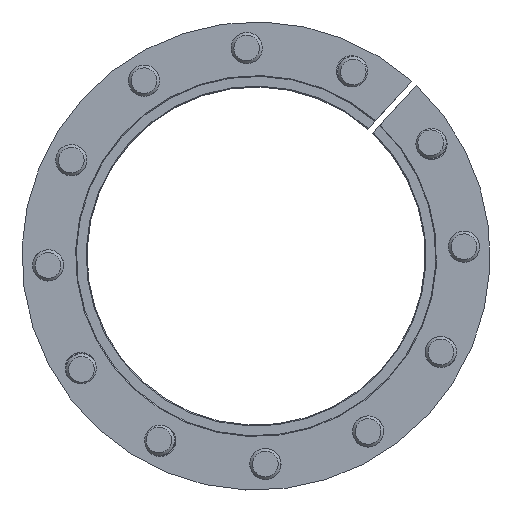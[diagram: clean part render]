
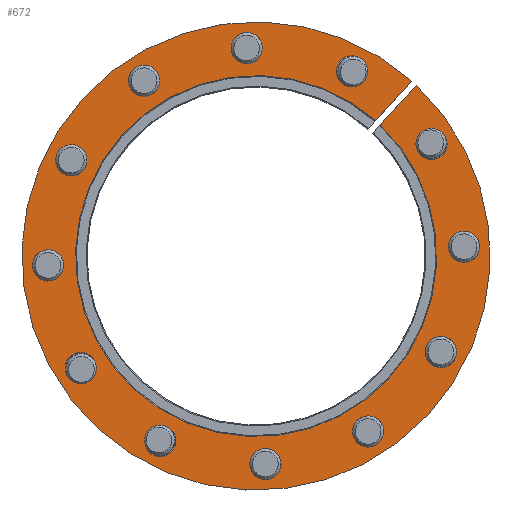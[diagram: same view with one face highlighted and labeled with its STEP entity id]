
A CAD part, left-side view. The second image highlights one B-rep face of the part: STEP entity #672.
In plain terms, the highlighted planar face has unit normal (-1, 0, 0) as drawn and (1, 0, 0) by its records, which use the part's own axes.
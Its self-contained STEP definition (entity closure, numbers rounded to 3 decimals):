
#123=CARTESIAN_POINT('',(34.,146.569,50.569));
#124=VERTEX_POINT('',#123);
#125=CARTESIAN_POINT('',(34.,146.569,56.569));
#126=DIRECTION('',(-1.0,0.0,0.0));
#127=DIRECTION('',(0.0,0.0,1.0));
#128=AXIS2_PLACEMENT_3D('',#125,#126,#127);
#129=CIRCLE('',#128,6.);
#130=EDGE_CURVE('',#124,#124,#129,.T.);
#151=CARTESIAN_POINT('',(34.,69.294,71.274));
#152=VERTEX_POINT('',#151);
#153=CARTESIAN_POINT('',(34.,69.294,77.274));
#154=DIRECTION('',(-1.0,0.0,0.0));
#155=DIRECTION('',(0.0,0.0,1.0));
#156=AXIS2_PLACEMENT_3D('',#153,#154,#155);
#157=CIRCLE('',#156,6.);
#158=EDGE_CURVE('',#152,#152,#157,.T.);
#179=CARTESIAN_POINT('',(34.,12.726,14.706));
#180=VERTEX_POINT('',#179);
#181=CARTESIAN_POINT('',(34.,12.726,20.706));
#182=DIRECTION('',(-1.0,0.0,0.0));
#183=DIRECTION('',(0.0,0.0,1.0));
#184=AXIS2_PLACEMENT_3D('',#181,#182,#183);
#185=CIRCLE('',#184,6.);
#186=EDGE_CURVE('',#180,#180,#185,.T.);
#207=CARTESIAN_POINT('',(34.,33.431,-62.569));
#208=VERTEX_POINT('',#207);
#209=CARTESIAN_POINT('',(34.,33.431,-56.569));
#210=DIRECTION('',(-1.0,0.0,0.0));
#211=DIRECTION('',(0.0,0.0,1.0));
#212=AXIS2_PLACEMENT_3D('',#209,#210,#211);
#213=CIRCLE('',#212,6.);
#214=EDGE_CURVE('',#208,#208,#213,.T.);
#235=CARTESIAN_POINT('',(34.,110.706,-83.274));
#236=VERTEX_POINT('',#235);
#237=CARTESIAN_POINT('',(34.,110.706,-77.274));
#238=DIRECTION('',(-1.0,0.0,0.0));
#239=DIRECTION('',(0.0,0.0,1.0));
#240=AXIS2_PLACEMENT_3D('',#237,#238,#239);
#241=CIRCLE('',#240,6.);
#242=EDGE_CURVE('',#236,#236,#241,.T.);
#263=CARTESIAN_POINT('',(34.,167.274,-26.706));
#264=VERTEX_POINT('',#263);
#265=CARTESIAN_POINT('',(34.,167.274,-20.706));
#266=DIRECTION('',(-1.0,0.0,0.0));
#267=DIRECTION('',(0.0,0.0,1.0));
#268=AXIS2_PLACEMENT_3D('',#265,#266,#267);
#269=CIRCLE('',#268,6.);
#270=EDGE_CURVE('',#264,#264,#269,.T.);
#280=CARTESIAN_POINT('',(34.0,88.75,89.991));
#281=VERTEX_POINT('',#280);
#290=CARTESIAN_POINT('',(34.,88.75,69.369));
#291=VERTEX_POINT('',#290);
#292=CARTESIAN_POINT('',(34.,88.75,69.369));
#293=DIRECTION('',(0.0,0.0,1.0));
#294=VECTOR('',#293,20.623);
#295=LINE('',#292,#294);
#296=EDGE_CURVE('',#291,#281,#295,.T.);
#346=CARTESIAN_POINT('',(34.0,91.25,89.991));
#347=VERTEX_POINT('',#346);
#386=CARTESIAN_POINT('',(34.,91.25,69.369));
#387=VERTEX_POINT('',#386);
#394=CARTESIAN_POINT('',(34.,91.25,89.991));
#395=DIRECTION('',(0.0,0.0,-1.0));
#396=VECTOR('',#395,20.623);
#397=LINE('',#394,#396);
#398=EDGE_CURVE('',#347,#387,#397,.T.);
#419=CARTESIAN_POINT('',(34.,167.274,14.706));
#420=VERTEX_POINT('',#419);
#421=CARTESIAN_POINT('',(34.,167.274,20.706));
#422=DIRECTION('',(-1.0,0.0,0.0));
#423=DIRECTION('',(0.0,0.0,1.0));
#424=AXIS2_PLACEMENT_3D('',#421,#422,#423);
#425=CIRCLE('',#424,6.);
#426=EDGE_CURVE('',#420,#420,#425,.T.);
#447=CARTESIAN_POINT('',(34.,146.569,-62.569));
#448=VERTEX_POINT('',#447);
#449=CARTESIAN_POINT('',(34.,146.569,-56.569));
#450=DIRECTION('',(-1.0,0.0,0.0));
#451=DIRECTION('',(0.0,0.0,1.0));
#452=AXIS2_PLACEMENT_3D('',#449,#450,#451);
#453=CIRCLE('',#452,6.);
#454=EDGE_CURVE('',#448,#448,#453,.T.);
#475=CARTESIAN_POINT('',(34.,69.294,-83.274));
#476=VERTEX_POINT('',#475);
#477=CARTESIAN_POINT('',(34.,69.294,-77.274));
#478=DIRECTION('',(-1.0,0.0,0.0));
#479=DIRECTION('',(0.0,0.0,1.0));
#480=AXIS2_PLACEMENT_3D('',#477,#478,#479);
#481=CIRCLE('',#480,6.);
#482=EDGE_CURVE('',#476,#476,#481,.T.);
#503=CARTESIAN_POINT('',(34.,12.726,-26.706));
#504=VERTEX_POINT('',#503);
#505=CARTESIAN_POINT('',(34.,12.726,-20.706));
#506=DIRECTION('',(-1.0,0.0,0.0));
#507=DIRECTION('',(0.0,0.0,1.0));
#508=AXIS2_PLACEMENT_3D('',#505,#506,#507);
#509=CIRCLE('',#508,6.);
#510=EDGE_CURVE('',#504,#504,#509,.T.);
#531=CARTESIAN_POINT('',(34.,33.431,50.569));
#532=VERTEX_POINT('',#531);
#533=CARTESIAN_POINT('',(34.,33.431,56.569));
#534=DIRECTION('',(-1.0,0.0,0.0));
#535=DIRECTION('',(0.0,0.0,1.0));
#536=AXIS2_PLACEMENT_3D('',#533,#534,#535);
#537=CIRCLE('',#536,6.);
#538=EDGE_CURVE('',#532,#532,#537,.T.);
#559=CARTESIAN_POINT('',(34.,110.706,71.274));
#560=VERTEX_POINT('',#559);
#561=CARTESIAN_POINT('',(34.,110.706,77.274));
#562=DIRECTION('',(-1.0,0.0,0.0));
#563=DIRECTION('',(0.0,0.0,1.0));
#564=AXIS2_PLACEMENT_3D('',#561,#562,#563);
#565=CIRCLE('',#564,6.);
#566=EDGE_CURVE('',#560,#560,#565,.T.);
#577=CARTESIAN_POINT('',(34.0,90.,0.0));
#578=DIRECTION('',(-1.0,0.0,0.0));
#579=DIRECTION('',(0.0,-1.0,0.0));
#580=AXIS2_PLACEMENT_3D('',#577,#578,#579);
#581=CIRCLE('',#580,90.);
#582=EDGE_CURVE('',#347,#281,#581,.T.);
#619=CARTESIAN_POINT('',(34.,10.31,0.0));
#620=DIRECTION('',(1.0,0.0,0.0));
#621=DIRECTION('',(0.0,0.0,-1.0));
#622=AXIS2_PLACEMENT_3D('',#619,#620,#621);
#623=PLANE('',#622);
#624=ORIENTED_EDGE('',*,*,#398,.T.);
#625=CARTESIAN_POINT('',(34.,90.,0.0));
#626=DIRECTION('',(-1.0,0.0,0.0));
#627=DIRECTION('',(0.0,-1.0,0.0));
#628=AXIS2_PLACEMENT_3D('',#625,#626,#627);
#629=CIRCLE('',#628,69.38);
#630=EDGE_CURVE('',#387,#291,#629,.T.);
#631=ORIENTED_EDGE('',*,*,#630,.T.);
#632=ORIENTED_EDGE('',*,*,#296,.T.);
#633=ORIENTED_EDGE('',*,*,#582,.F.);
#634=EDGE_LOOP('',(#624,#631,#632,#633));
#635=FACE_OUTER_BOUND('',#634,.T.);
#636=ORIENTED_EDGE('',*,*,#566,.T.);
#637=EDGE_LOOP('',(#636));
#638=FACE_BOUND('',#637,.T.);
#639=ORIENTED_EDGE('',*,*,#538,.T.);
#640=EDGE_LOOP('',(#639));
#641=FACE_BOUND('',#640,.T.);
#642=ORIENTED_EDGE('',*,*,#510,.T.);
#643=EDGE_LOOP('',(#642));
#644=FACE_BOUND('',#643,.T.);
#645=ORIENTED_EDGE('',*,*,#482,.T.);
#646=EDGE_LOOP('',(#645));
#647=FACE_BOUND('',#646,.T.);
#648=ORIENTED_EDGE('',*,*,#454,.T.);
#649=EDGE_LOOP('',(#648));
#650=FACE_BOUND('',#649,.T.);
#651=ORIENTED_EDGE('',*,*,#426,.T.);
#652=EDGE_LOOP('',(#651));
#653=FACE_BOUND('',#652,.T.);
#654=ORIENTED_EDGE('',*,*,#270,.T.);
#655=EDGE_LOOP('',(#654));
#656=FACE_BOUND('',#655,.T.);
#657=ORIENTED_EDGE('',*,*,#242,.T.);
#658=EDGE_LOOP('',(#657));
#659=FACE_BOUND('',#658,.T.);
#660=ORIENTED_EDGE('',*,*,#214,.T.);
#661=EDGE_LOOP('',(#660));
#662=FACE_BOUND('',#661,.T.);
#663=ORIENTED_EDGE('',*,*,#186,.T.);
#664=EDGE_LOOP('',(#663));
#665=FACE_BOUND('',#664,.T.);
#666=ORIENTED_EDGE('',*,*,#158,.T.);
#667=EDGE_LOOP('',(#666));
#668=FACE_BOUND('',#667,.T.);
#669=ORIENTED_EDGE('',*,*,#130,.T.);
#670=EDGE_LOOP('',(#669));
#671=FACE_BOUND('',#670,.T.);
#672=ADVANCED_FACE('',(#635,#638,#641,#644,#647,#650,#653,#656,#659,#662,#665,#668,#671),#623,.T.);
